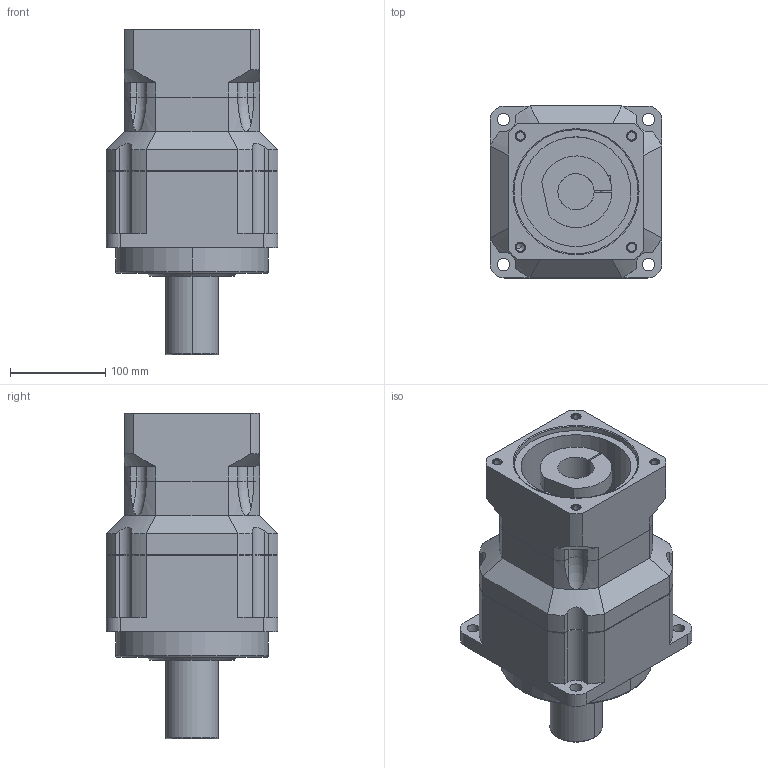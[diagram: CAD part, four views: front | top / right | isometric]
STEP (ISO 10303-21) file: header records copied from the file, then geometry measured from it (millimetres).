
FILE_DESCRIPTION((''),'2;1');
FILE_NAME('AF1802-P4050102_ASM','2005-09-13T',('jacky'),(''),'PRO/ENGINEER BY PARAMETRIC TECHNOLOGY CORPORATION, 2001280','PRO/ENGINEER BY PARAMETRIC TECHNOLOGY CORPORATION, 2001280','');
FILE_SCHEMA(('CONFIG_CONTROL_DESIGN'));
Length unit declared in the file: millimetre
Products named in the file (4): AF1802; AB1802-1; P4050102; AF1802-P4050102_ASM
Assembly tree (3 placements, depth 2):
  AF1802-P4050102_ASM
    AF1802
    AB1802-1
    P4050102
Bounding box: 180 x 180 x 340.5 mm (x, y, z)
Volume: 5598157.5 mm3; surface area: 355676.4 mm2
Topology: 3 solids, 8 shells, 255 faces, 637 edges, 402 vertices
Faces by surface type: cylinder 101, plane 98, cone 40, torus 12, bspline 4
Entity records: 8104 total; most frequent: CARTESIAN_POINT 1776, DIRECTION 1375, ORIENTED_EDGE 1244, EDGE_CURVE 633, AXIS2_PLACEMENT_3D 533, VERTEX_POINT 402, VECTOR 309, LINE 309
